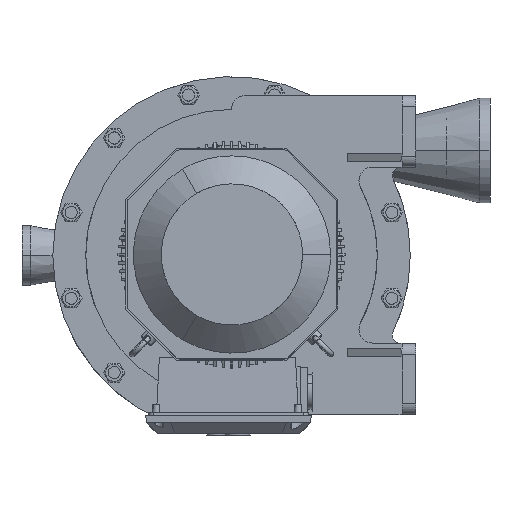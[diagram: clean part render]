
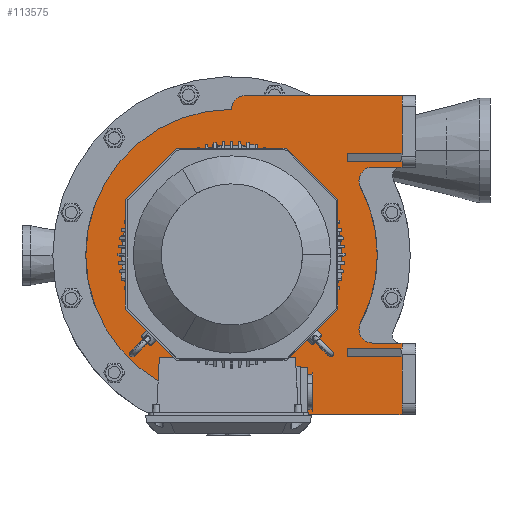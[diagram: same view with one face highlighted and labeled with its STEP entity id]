
A CAD part, top view. The second image highlights one B-rep face of the part: STEP entity #113575.
In plain terms, the highlighted planar face has unit normal (0, 0, 1).
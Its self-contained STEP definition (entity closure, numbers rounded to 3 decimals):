
#112648=CARTESIAN_POINT('',(231.661,135.,273.0));
#112649=VERTEX_POINT('',#112648);
#112665=CARTESIAN_POINT('',(256.661,160.,273.0));
#112666=VERTEX_POINT('',#112665);
#112673=CARTESIAN_POINT('',(256.661,135.,273.0));
#112674=DIRECTION('',(0.0,0.0,1.0));
#112675=DIRECTION('',(1.0,0.0,0.0));
#112676=AXIS2_PLACEMENT_3D('',#112673,#112674,#112675);
#112677=CIRCLE('',#112676,25.0);
#112678=EDGE_CURVE('',#112666,#112649,#112677,.T.);
#112688=CARTESIAN_POINT('',(265.0,0.,273.0));
#112689=VERTEX_POINT('',#112688);
#112698=CARTESIAN_POINT('',(234.535,-123.362,273.0));
#112699=VERTEX_POINT('',#112698);
#112700=CARTESIAN_POINT('',(0.0,0.0,273.0));
#112701=DIRECTION('',(0.0,0.0,-1.0));
#112702=DIRECTION('',(1.0,0.0,0.0));
#112703=AXIS2_PLACEMENT_3D('',#112700,#112701,#112702);
#112704=CIRCLE('',#112703,265.0);
#112705=EDGE_CURVE('',#112689,#112699,#112704,.T.);
#112749=CARTESIAN_POINT('',(231.661,-135.,273.0));
#112750=VERTEX_POINT('',#112749);
#112765=CARTESIAN_POINT('',(256.661,-135.,273.0));
#112766=DIRECTION('',(0.0,0.0,1.0));
#112767=DIRECTION('',(1.0,0.0,0.0));
#112768=AXIS2_PLACEMENT_3D('',#112765,#112766,#112767);
#112769=CIRCLE('',#112768,25.0);
#112770=EDGE_CURVE('',#112699,#112750,#112769,.T.);
#112782=CARTESIAN_POINT('',(-265.0,0.,273.0));
#112783=VERTEX_POINT('',#112782);
#112850=CARTESIAN_POINT('',(0.,-265.0,273.0));
#112851=VERTEX_POINT('',#112850);
#112858=CARTESIAN_POINT('',(0.0,0.0,273.0));
#112859=DIRECTION('',(0.0,0.0,-1.0));
#112860=DIRECTION('',(1.0,0.0,0.0));
#112861=AXIS2_PLACEMENT_3D('',#112858,#112859,#112860);
#112862=CIRCLE('',#112861,265.0);
#112863=EDGE_CURVE('',#112851,#112783,#112862,.T.);
#112875=CARTESIAN_POINT('',(150.0,0.0,273.0));
#112876=VERTEX_POINT('',#112875);
#112892=CARTESIAN_POINT('',(-150.0,0.,273.0));
#112893=VERTEX_POINT('',#112892);
#112900=CARTESIAN_POINT('',(0.0,0.0,273.));
#112901=DIRECTION('',(0.0,0.0,-1.0));
#112902=DIRECTION('',(1.0,0.0,0.0));
#112903=AXIS2_PLACEMENT_3D('',#112900,#112901,#112902);
#112904=CIRCLE('',#112903,150.0);
#112905=EDGE_CURVE('',#112876,#112893,#112904,.T.);
#113273=CARTESIAN_POINT('',(210.0,170.,273.));
#113274=VERTEX_POINT('',#113273);
#113281=CARTESIAN_POINT('',(310.0,170.,273.));
#113282=VERTEX_POINT('',#113281);
#113283=CARTESIAN_POINT('',(310.0,170.,273.));
#113284=DIRECTION('',(-1.0,0.0,0.0));
#113285=VECTOR('',#113284,100.0);
#113286=LINE('',#113283,#113285);
#113287=EDGE_CURVE('',#113282,#113274,#113286,.T.);
#113313=CARTESIAN_POINT('',(310.0,-170.,273.));
#113314=VERTEX_POINT('',#113313);
#113321=CARTESIAN_POINT('',(210.0,-170.,273.));
#113322=VERTEX_POINT('',#113321);
#113323=CARTESIAN_POINT('',(210.0,-170.,273.));
#113324=DIRECTION('',(1.0,0.0,0.0));
#113325=VECTOR('',#113324,100.0);
#113326=LINE('',#113323,#113325);
#113327=EDGE_CURVE('',#113322,#113314,#113326,.T.);
#113360=CARTESIAN_POINT('',(210.0,185.,273.));
#113361=VERTEX_POINT('',#113360);
#113368=CARTESIAN_POINT('',(210.0,170.,273.));
#113369=DIRECTION('',(0.0,1.0,0.0));
#113370=VECTOR('',#113369,15.);
#113371=LINE('',#113368,#113370);
#113372=EDGE_CURVE('',#113274,#113361,#113371,.T.);
#113383=CARTESIAN_POINT('',(310.0,185.,273.));
#113384=VERTEX_POINT('',#113383);
#113385=CARTESIAN_POINT('',(210.0,185.,273.));
#113386=DIRECTION('',(1.0,0.0,0.0));
#113387=VECTOR('',#113386,100.0);
#113388=LINE('',#113385,#113387);
#113389=EDGE_CURVE('',#113361,#113384,#113388,.T.);
#113407=CARTESIAN_POINT('',(310.0,160.,273.));
#113408=VERTEX_POINT('',#113407);
#113409=CARTESIAN_POINT('',(310.0,160.,273.));
#113410=DIRECTION('',(0.0,1.0,0.0));
#113411=VECTOR('',#113410,10.);
#113412=LINE('',#113409,#113411);
#113413=EDGE_CURVE('',#113408,#113282,#113412,.T.);
#113433=CARTESIAN_POINT('',(90.43,0.,273.));
#113434=DIRECTION('',(0.0,0.0,1.0));
#113435=DIRECTION('',(1.0,0.0,0.0));
#113436=AXIS2_PLACEMENT_3D('',#113433,#113434,#113435);
#113437=PLANE('',#113436);
#113438=ORIENTED_EDGE('',*,*,#113287,.T.);
#113439=ORIENTED_EDGE('',*,*,#113372,.T.);
#113440=ORIENTED_EDGE('',*,*,#113389,.T.);
#113441=CARTESIAN_POINT('',(310.0,290.0,273.));
#113442=VERTEX_POINT('',#113441);
#113443=CARTESIAN_POINT('',(310.0,185.,273.));
#113444=DIRECTION('',(0.0,1.0,0.0));
#113445=VECTOR('',#113444,105.);
#113446=LINE('',#113443,#113445);
#113447=EDGE_CURVE('',#113384,#113442,#113446,.T.);
#113448=ORIENTED_EDGE('',*,*,#113447,.T.);
#113449=CARTESIAN_POINT('',(25.,290.0,273.0));
#113450=VERTEX_POINT('',#113449);
#113451=CARTESIAN_POINT('',(25.,290.0,273.0));
#113452=DIRECTION('',(1.0,0.0,0.0));
#113453=VECTOR('',#113452,285.0);
#113454=LINE('',#113451,#113453);
#113455=EDGE_CURVE('',#113450,#113442,#113454,.T.);
#113456=ORIENTED_EDGE('',*,*,#113455,.F.);
#113457=CARTESIAN_POINT('',(0.,265.0,273.0));
#113458=VERTEX_POINT('',#113457);
#113459=CARTESIAN_POINT('',(25.,265.0,273.0));
#113460=DIRECTION('',(0.0,0.0,-1.0));
#113461=DIRECTION('',(1.0,0.0,0.0));
#113462=AXIS2_PLACEMENT_3D('',#113459,#113460,#113461);
#113463=CIRCLE('',#113462,25.0);
#113464=EDGE_CURVE('',#113458,#113450,#113463,.T.);
#113465=ORIENTED_EDGE('',*,*,#113464,.F.);
#113466=CARTESIAN_POINT('',(0.0,0.0,273.0));
#113467=DIRECTION('',(0.0,0.0,-1.0));
#113468=DIRECTION('',(1.0,0.0,0.0));
#113469=AXIS2_PLACEMENT_3D('',#113466,#113467,#113468);
#113470=CIRCLE('',#113469,265.0);
#113471=EDGE_CURVE('',#112783,#113458,#113470,.T.);
#113472=ORIENTED_EDGE('',*,*,#113471,.F.);
#113473=ORIENTED_EDGE('',*,*,#112863,.F.);
#113474=CARTESIAN_POINT('',(25.,-290.0,273.0));
#113475=VERTEX_POINT('',#113474);
#113476=CARTESIAN_POINT('',(25.,-265.0,273.0));
#113477=DIRECTION('',(0.0,0.0,-1.0));
#113478=DIRECTION('',(1.0,0.0,0.0));
#113479=AXIS2_PLACEMENT_3D('',#113476,#113477,#113478);
#113480=CIRCLE('',#113479,25.0);
#113481=EDGE_CURVE('',#113475,#112851,#113480,.T.);
#113482=ORIENTED_EDGE('',*,*,#113481,.F.);
#113483=CARTESIAN_POINT('',(310.0,-290.0,273.));
#113484=VERTEX_POINT('',#113483);
#113485=CARTESIAN_POINT('',(310.0,-290.0,273.));
#113486=DIRECTION('',(-1.0,0.0,0.0));
#113487=VECTOR('',#113486,285.0);
#113488=LINE('',#113485,#113487);
#113489=EDGE_CURVE('',#113484,#113475,#113488,.T.);
#113490=ORIENTED_EDGE('',*,*,#113489,.F.);
#113491=CARTESIAN_POINT('',(310.0,-185.,273.));
#113492=VERTEX_POINT('',#113491);
#113493=CARTESIAN_POINT('',(310.0,-290.0,273.));
#113494=DIRECTION('',(0.0,1.0,0.0));
#113495=VECTOR('',#113494,105.);
#113496=LINE('',#113493,#113495);
#113497=EDGE_CURVE('',#113484,#113492,#113496,.T.);
#113498=ORIENTED_EDGE('',*,*,#113497,.T.);
#113499=CARTESIAN_POINT('',(210.0,-185.,273.));
#113500=VERTEX_POINT('',#113499);
#113501=CARTESIAN_POINT('',(310.0,-185.,273.));
#113502=DIRECTION('',(-1.0,0.0,0.0));
#113503=VECTOR('',#113502,100.0);
#113504=LINE('',#113501,#113503);
#113505=EDGE_CURVE('',#113492,#113500,#113504,.T.);
#113506=ORIENTED_EDGE('',*,*,#113505,.T.);
#113507=CARTESIAN_POINT('',(210.0,-185.,273.));
#113508=DIRECTION('',(0.0,1.0,0.0));
#113509=VECTOR('',#113508,15.);
#113510=LINE('',#113507,#113509);
#113511=EDGE_CURVE('',#113500,#113322,#113510,.T.);
#113512=ORIENTED_EDGE('',*,*,#113511,.T.);
#113513=ORIENTED_EDGE('',*,*,#113327,.T.);
#113514=CARTESIAN_POINT('',(310.0,-160.0,273.));
#113515=VERTEX_POINT('',#113514);
#113516=CARTESIAN_POINT('',(310.0,-170.,273.));
#113517=DIRECTION('',(0.0,1.0,0.0));
#113518=VECTOR('',#113517,10.);
#113519=LINE('',#113516,#113518);
#113520=EDGE_CURVE('',#113314,#113515,#113519,.T.);
#113521=ORIENTED_EDGE('',*,*,#113520,.T.);
#113522=CARTESIAN_POINT('',(256.661,-160.,273.0));
#113523=VERTEX_POINT('',#113522);
#113524=CARTESIAN_POINT('',(256.661,-160.,273.0));
#113525=DIRECTION('',(1.0,0.0,0.0));
#113526=VECTOR('',#113525,53.339);
#113527=LINE('',#113524,#113526);
#113528=EDGE_CURVE('',#113523,#113515,#113527,.T.);
#113529=ORIENTED_EDGE('',*,*,#113528,.F.);
#113530=CARTESIAN_POINT('',(256.661,-135.,273.0));
#113531=DIRECTION('',(0.0,0.0,1.0));
#113532=DIRECTION('',(1.0,0.0,0.0));
#113533=AXIS2_PLACEMENT_3D('',#113530,#113531,#113532);
#113534=CIRCLE('',#113533,25.0);
#113535=EDGE_CURVE('',#112750,#113523,#113534,.T.);
#113536=ORIENTED_EDGE('',*,*,#113535,.F.);
#113537=ORIENTED_EDGE('',*,*,#112770,.F.);
#113538=ORIENTED_EDGE('',*,*,#112705,.F.);
#113539=CARTESIAN_POINT('',(234.535,123.362,273.0));
#113540=VERTEX_POINT('',#113539);
#113541=CARTESIAN_POINT('',(0.0,0.0,273.0));
#113542=DIRECTION('',(0.0,0.0,-1.0));
#113543=DIRECTION('',(1.0,0.0,0.0));
#113544=AXIS2_PLACEMENT_3D('',#113541,#113542,#113543);
#113545=CIRCLE('',#113544,265.0);
#113546=EDGE_CURVE('',#113540,#112689,#113545,.T.);
#113547=ORIENTED_EDGE('',*,*,#113546,.F.);
#113548=CARTESIAN_POINT('',(256.661,135.,273.0));
#113549=DIRECTION('',(0.0,0.0,1.0));
#113550=DIRECTION('',(1.0,0.0,0.0));
#113551=AXIS2_PLACEMENT_3D('',#113548,#113549,#113550);
#113552=CIRCLE('',#113551,25.0);
#113553=EDGE_CURVE('',#112649,#113540,#113552,.T.);
#113554=ORIENTED_EDGE('',*,*,#113553,.F.);
#113555=ORIENTED_EDGE('',*,*,#112678,.F.);
#113556=CARTESIAN_POINT('',(310.0,160.,273.));
#113557=DIRECTION('',(-1.0,0.0,0.0));
#113558=VECTOR('',#113557,53.339);
#113559=LINE('',#113556,#113558);
#113560=EDGE_CURVE('',#113408,#112666,#113559,.T.);
#113561=ORIENTED_EDGE('',*,*,#113560,.F.);
#113562=ORIENTED_EDGE('',*,*,#113413,.T.);
#113563=EDGE_LOOP('',(#113438,#113439,#113440,#113448,#113456,#113465,#113472,#113473,#113482,#113490,#113498,#113506,#113512,#113513,#113521,#113529,#113536,#113537,#113538,#113547,#113554,#113555,#113561,#113562));
#113564=FACE_OUTER_BOUND('',#113563,.T.);
#113565=ORIENTED_EDGE('',*,*,#112905,.T.);
#113566=CARTESIAN_POINT('',(0.0,0.0,273.));
#113567=DIRECTION('',(0.0,0.0,-1.0));
#113568=DIRECTION('',(1.0,0.0,0.0));
#113569=AXIS2_PLACEMENT_3D('',#113566,#113567,#113568);
#113570=CIRCLE('',#113569,150.0);
#113571=EDGE_CURVE('',#112893,#112876,#113570,.T.);
#113572=ORIENTED_EDGE('',*,*,#113571,.T.);
#113573=EDGE_LOOP('',(#113565,#113572));
#113574=FACE_BOUND('',#113573,.T.);
#113575=ADVANCED_FACE('',(#113564,#113574),#113437,.T.);
